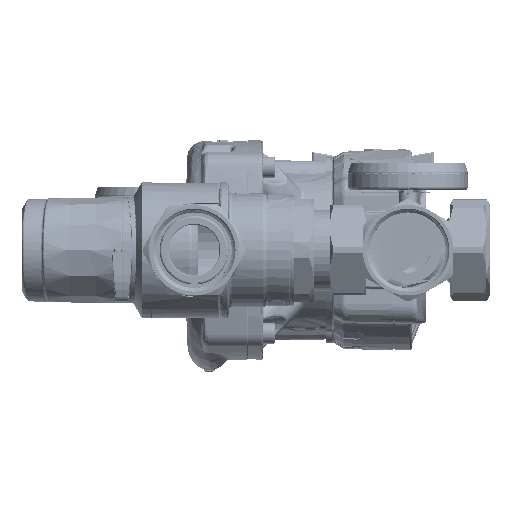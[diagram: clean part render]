
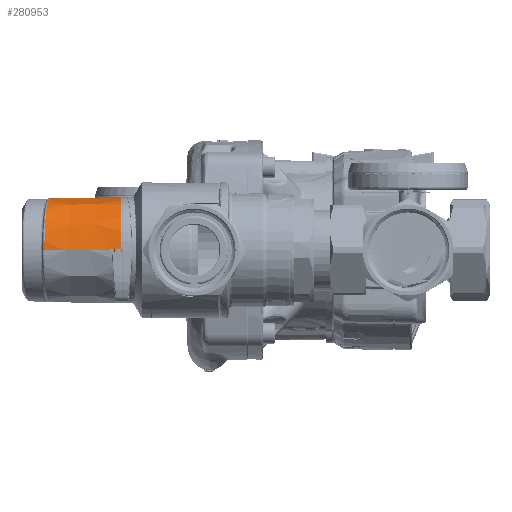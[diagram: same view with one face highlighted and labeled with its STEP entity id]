
A CAD part, front view. The second image highlights one B-rep face of the part: STEP entity #280953.
In plain terms, the highlighted free-form (B-spline) face has degree [3, 3] with [4, 4] control points.
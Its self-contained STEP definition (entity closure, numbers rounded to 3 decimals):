
#3375 = EDGE_CURVE ( 'NONE', #60847, #292696, #203603, .T. ) ;
#7276 = CARTESIAN_POINT ( 'NONE',  ( 23.592, 0.6, 0.3 ) ) ;
#9633 = CIRCLE ( 'NONE', #456297, 1085.244 ) ;
#15354 = CARTESIAN_POINT ( 'NONE',  ( 23.587, 0.1, 5. ) ) ;
#21893 = EDGE_CURVE ( 'NONE', #275556, #30817, #365235, .T. ) ;
#22714 = CARTESIAN_POINT ( 'NONE',  ( 2., 21.125, 31.922 ) ) ;
#25248 = CARTESIAN_POINT ( 'NONE',  ( 14.65, 21.595, 10.843 ) ) ;
#27759 = CARTESIAN_POINT ( 'NONE',  ( 14.374, 21.125, 31.922 ) ) ;
#30817 = VERTEX_POINT ( 'NONE', #168786 ) ;
#38809 = EDGE_CURVE ( 'NONE', #376398, #73040, #207289, .T. ) ;
#39853 = CARTESIAN_POINT ( 'NONE',  ( 23.587, 0.232, 5. ) ) ;
#40317 = EDGE_CURVE ( 'NONE', #376398, #30817, #418196, .T. ) ;
#40450 = CARTESIAN_POINT ( 'NONE',  ( 23.591, 0.6, 1.7 ) ) ;
#52638 = B_SPLINE_CURVE_WITH_KNOTS ( 'NONE', 3,
 ( #271637, #164817, #40450, #7276 ),
 .UNSPECIFIED., .F., .F.,
 ( 4, 4 ),
 ( 0., 1. ),
 .UNSPECIFIED. ) ;
#58256 = EDGE_CURVE ( 'NONE', #73040, #60847, #52638, .T. ) ;
#58394 = CARTESIAN_POINT ( 'NONE',  ( 23.125, 12.374, 31.922 ) ) ;
#60847 = VERTEX_POINT ( 'NONE', #101413 ) ;
#62966 = DIRECTION ( 'NONE',  ( 0., 0., 1. ) ) ;
#73040 = VERTEX_POINT ( 'NONE', #190734 ) ;
#94676 = CARTESIAN_POINT ( 'NONE',  ( 20.656, 10.011, 31.471 ) ) ;
#98986 = CARTESIAN_POINT ( 'NONE',  ( 23.6, 0., 0.3 ) ) ;
#101413 = CARTESIAN_POINT ( 'NONE',  ( 23.592, 0.6, 0.3 ) ) ;
#108558 = CARTESIAN_POINT ( 'NONE',  ( 2., -1063.644, -0.2 ) ) ;
#126803 = EDGE_CURVE ( 'NONE', #275556, #356787, #218481, .T. ) ;
#135284 = CARTESIAN_POINT ( 'NONE',  ( 13.775, 17.743, 30.742 ) ) ;
#144614 = CARTESIAN_POINT ( 'NONE',  ( 23.125, 0., 31.922 ) ) ;
#153105 = DIRECTION ( 'NONE',  ( 1., 0., 0. ) ) ;
#156707 = CARTESIAN_POINT ( 'NONE',  ( 23.581, 0.6, 4.632 ) ) ;
#161089 = FACE_OUTER_BOUND ( 'NONE', #452139, .T. ) ;
#164817 = CARTESIAN_POINT ( 'NONE',  ( 23.588, 0.6, 3.1 ) ) ;
#168786 = CARTESIAN_POINT ( 'NONE',  ( 23.588, 0., 5. ) ) ;
#190734 = CARTESIAN_POINT ( 'NONE',  ( 23.582, 0.6, 4.5 ) ) ;
#194889 = CARTESIAN_POINT ( 'NONE',  ( 23.585, 0.361, 4.946 ) ) ;
#197164 = ORIENTED_EDGE ( 'NONE', *, *, #21893, .T. ) ;
#199068 = AXIS2_PLACEMENT_3D ( 'NONE', #460656, #272439, #153105 ) ;
#203603 = CIRCLE ( 'NONE', #479261, 21.6 ) ;
#207289 = B_SPLINE_CURVE_WITH_KNOTS ( 'NONE', 3,
 ( #426084, #39853, #194889, #349934, #156707, #311740 ),
 .UNSPECIFIED., .F., .F.,
 ( 4, 2, 4 ),
 ( 0., 0., 0.001 ),
 .UNSPECIFIED. ) ;
#211581 = CARTESIAN_POINT ( 'NONE',  ( 6.124, 20.914, 29.93 ) ) ;
#213379 = CARTESIAN_POINT ( 'NONE',  ( 14.557, 21.437, 21.384 ) ) ;
#215445 = DIRECTION ( 'NONE',  ( 0., -1., 0. ) ) ;
#218481 = B_SPLINE_CURVE_WITH_KNOTS ( 'NONE', 3,
 ( #485942, #287792, #292802, #259695, #414730, #442769, #94676, #447819, #249671, #135284, #404647, #211581, #462822, #338561 ),
 .UNSPECIFIED., .F., .F.,
 ( 4, 1, 1, 1, 1, 1, 1, 1, 1, 1, 1, 4 ),
 ( 0., 0., 0.125, 0.188, 0.25, 0.313, 0.375, 0.5, 0.625, 0.75, 0.875, 1. ),
 .UNSPECIFIED. ) ;
#249125 = CARTESIAN_POINT ( 'NONE',  ( 2., 21.6, 0.3 ) ) ;
#249671 = CARTESIAN_POINT ( 'NONE',  ( 17.027, 15.074, 31.086 ) ) ;
#258961 = CARTESIAN_POINT ( 'NONE',  ( 23.6, 12.653, 0.3 ) ) ;
#259695 = CARTESIAN_POINT ( 'NONE',  ( 22.925, 3.47, 31.712 ) ) ;
#267169 = ORIENTED_EDGE ( 'NONE', *, *, #456854, .F. ) ;
#271637 = CARTESIAN_POINT ( 'NONE',  ( 23.582, 0.6, 4.5 ) ) ;
#272439 = DIRECTION ( 'NONE',  ( 0., 0., -1. ) ) ;
#275556 = VERTEX_POINT ( 'NONE', #312533 ) ;
#277528 = ORIENTED_EDGE ( 'NONE', *, *, #58256, .T. ) ;
#280953 = ADVANCED_FACE ( 'NONE', ( #161089 ), #466268, .T. ) ;
#287792 = CARTESIAN_POINT ( 'NONE',  ( 23.13, 0.005, 31.733 ) ) ;
#289563 = CARTESIAN_POINT ( 'NONE',  ( 23.437, 0., 21.384 ) ) ;
#291632 = CARTESIAN_POINT ( 'NONE',  ( 2., 0., 0.3 ) ) ;
#292696 = VERTEX_POINT ( 'NONE', #249125 ) ;
#292802 = CARTESIAN_POINT ( 'NONE',  ( 23.131, 1.399, 31.734 ) ) ;
#294609 = CARTESIAN_POINT ( 'NONE',  ( 2., 21.6, 0.3 ) ) ;
#299626 = CARTESIAN_POINT ( 'NONE',  ( 23.595, 12.65, 10.843 ) ) ;
#311740 = CARTESIAN_POINT ( 'NONE',  ( 23.582, 0.6, 4.5 ) ) ;
#312533 = CARTESIAN_POINT ( 'NONE',  ( 23.13, 0., 31.733 ) ) ;
#324622 = ORIENTED_EDGE ( 'NONE', *, *, #3375, .T. ) ;
#332616 = AXIS2_PLACEMENT_3D ( 'NONE', #457910, #333588, #338607 ) ;
#332813 = CARTESIAN_POINT ( 'NONE',  ( 2., 21.437, 21.384 ) ) ;
#333588 = DIRECTION ( 'NONE',  ( 0., 1., 0. ) ) ;
#338561 = CARTESIAN_POINT ( 'NONE',  ( 2., 21.194, 29.493 ) ) ;
#338607 = DIRECTION ( 'NONE',  ( 1., 0., 0. ) ) ;
#349934 = CARTESIAN_POINT ( 'NONE',  ( 23.582, 0.546, 4.762 ) ) ;
#352888 = ORIENTED_EDGE ( 'NONE', *, *, #126803, .F. ) ;
#356787 = VERTEX_POINT ( 'NONE', #486674 ) ;
#365235 = CIRCLE ( 'NONE', #332616, 1085.244 ) ;
#372958 = DIRECTION ( 'NONE',  ( -1., 0., 0. ) ) ;
#372967 = DIRECTION ( 'NONE',  ( -1., 0., 0. ) ) ;
#376398 = VERTEX_POINT ( 'NONE', #15354 ) ;
#404647 = CARTESIAN_POINT ( 'NONE',  ( 10.135, 19.691, 30.356 ) ) ;
#414730 = CARTESIAN_POINT ( 'NONE',  ( 22.242, 6.189, 31.639 ) ) ;
#418196 = CIRCLE ( 'NONE', #199068, 21.588 ) ;
#426084 = CARTESIAN_POINT ( 'NONE',  ( 23.587, 0.1, 5. ) ) ;
#442769 = CARTESIAN_POINT ( 'NONE',  ( 21.542, 8.137, 31.565 ) ) ;
#444558 = CARTESIAN_POINT ( 'NONE',  ( 2., 21.595, 10.843 ) ) ;
#447095 = CARTESIAN_POINT ( 'NONE',  ( 23.437, 12.557, 21.384 ) ) ;
#447819 = CARTESIAN_POINT ( 'NONE',  ( 19.212, 12.415, 31.318 ) ) ;
#452105 = CARTESIAN_POINT ( 'NONE',  ( 23.595, 0., 10.843 ) ) ;
#452139 = EDGE_LOOP ( 'NONE', ( #352888, #197164, #499615, #469985, #277528, #324622, #267169 ) ) ;
#456297 = AXIS2_PLACEMENT_3D ( 'NONE', #108558, #372958, #215445 ) ;
#456854 = EDGE_CURVE ( 'NONE', #356787, #292696, #9633, .T. ) ;
#457910 = CARTESIAN_POINT ( 'NONE',  ( -1061.644, 0., -0.2 ) ) ;
#460656 = CARTESIAN_POINT ( 'NONE',  ( 2., 0., 5. ) ) ;
#462822 = CARTESIAN_POINT ( 'NONE',  ( 3.393, 21.19, 29.641 ) ) ;
#466268 =( BOUNDED_SURFACE ( )  B_SPLINE_SURFACE ( 3, 3, ( 
 ( #144614, #58394, #27759, #22714 ),
 ( #289563, #447095, #213379, #332813 ),
 ( #452105, #299626, #25248, #444558 ),
 ( #98986, #258961, #487747, #294609 ) ),
 .UNSPECIFIED., .F., .F., .F. ) 
 B_SPLINE_SURFACE_WITH_KNOTS ( ( 4, 4 ),
 ( 4, 4 ),
 ( 0., 1. ),
 ( 0., 1. ),
 .UNSPECIFIED. ) 
 GEOMETRIC_REPRESENTATION_ITEM ( )  RATIONAL_B_SPLINE_SURFACE ( (
 ( 1., 0.805, 0.805, 1.),
 ( 1., 0.805, 0.805, 1.),
 ( 1., 0.805, 0.805, 1.),
 ( 1., 0.805, 0.805, 1.) ) ) 
 REPRESENTATION_ITEM ( '' )  SURFACE ( )  );
#469985 = ORIENTED_EDGE ( 'NONE', *, *, #38809, .T. ) ;
#479261 = AXIS2_PLACEMENT_3D ( 'NONE', #291632, #62966, #372967 ) ;
#485942 = CARTESIAN_POINT ( 'NONE',  ( 23.13, 0., 31.733 ) ) ;
#486674 = CARTESIAN_POINT ( 'NONE',  ( 2., 21.194, 29.493 ) ) ;
#487747 = CARTESIAN_POINT ( 'NONE',  ( 14.653, 21.6, 0.3 ) ) ;
#499615 = ORIENTED_EDGE ( 'NONE', *, *, #40317, .F. ) ;
